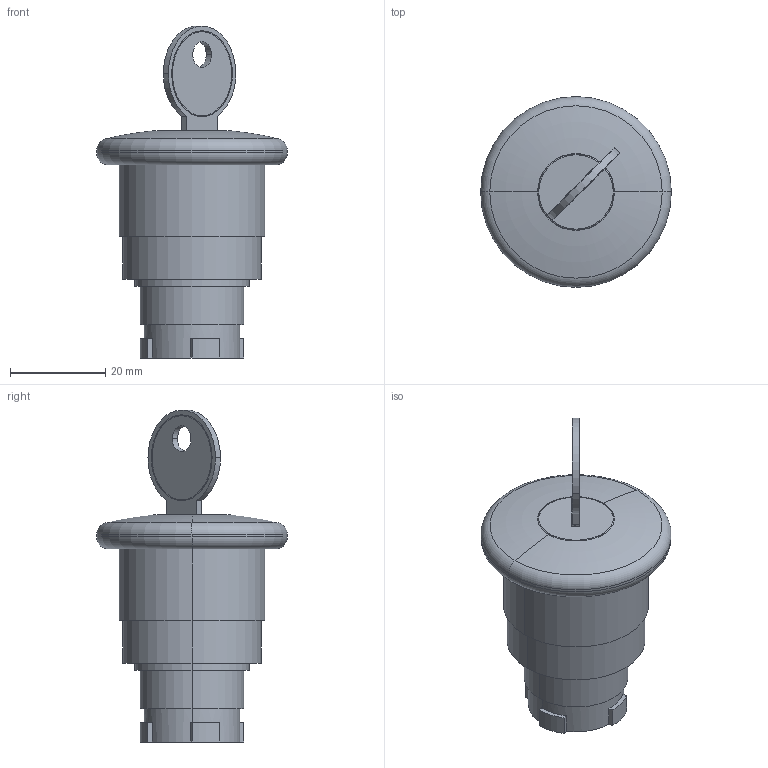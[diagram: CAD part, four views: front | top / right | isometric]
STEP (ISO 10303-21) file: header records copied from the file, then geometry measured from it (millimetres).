
FILE_DESCRIPTION (( 'STEP AP214' ), '1' );
FILE_NAME ('3D 斁麧錪 MTB2-BS14.STEP', '2017-05-19T11:09:54', ( 'adm' ), ( 'MICROSOFT' ), 'SwSTEP 2.0', 'SolidWorks 2011', '' );
FILE_SCHEMA (( 'AUTOMOTIVE_DESIGN' ));
Length unit declared in the file: millimetre
Products named in the file (1): 3D 斁麧錪 MTB2-BS14
Bounding box: 40 x 40 x 69.63 mm (x, y, z)
Volume: 30141.8 mm3; surface area: 8635.5 mm2
Topology: 1 solids, 2 shells, 116 faces, 283 edges, 184 vertices
Faces by surface type: plane 63, cylinder 45, torus 8
Entity records: 4753 total; most frequent: DIRECTION 631, CARTESIAN_POINT 584, ORIENTED_EDGE 566, EDGE_CURVE 283, AXIS2_PLACEMENT_3D 231, VERTEX_POINT 184, LINE 169, VECTOR 169
